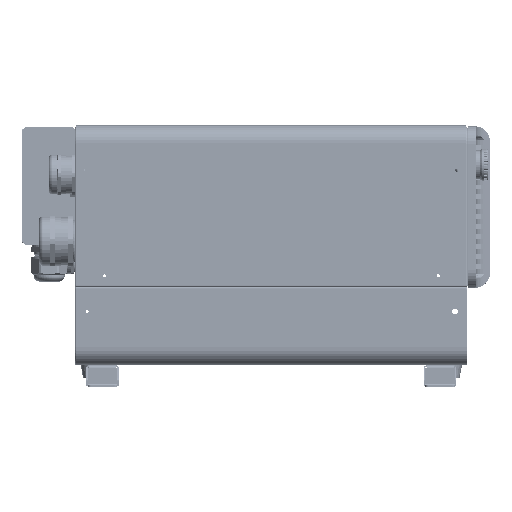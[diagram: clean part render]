
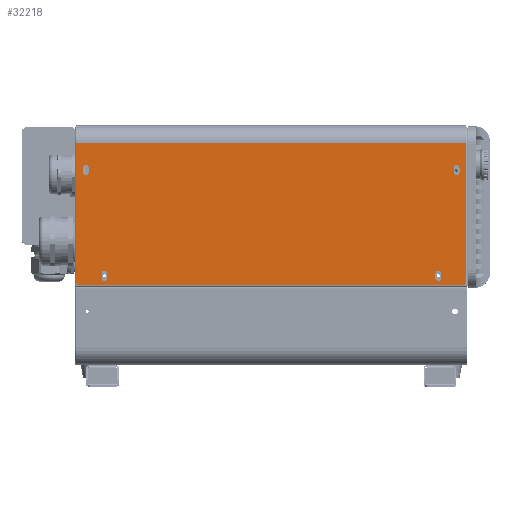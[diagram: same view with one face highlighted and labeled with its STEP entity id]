
A CAD part, left-side view. The second image highlights one B-rep face of the part: STEP entity #32218.
In plain terms, the highlighted planar face has unit normal (-1, 0, 0).
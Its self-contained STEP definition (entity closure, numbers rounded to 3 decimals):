
#5484=FACE_BOUND('',#75273,.T.);
#5485=FACE_BOUND('',#75274,.T.);
#5486=FACE_BOUND('',#75275,.T.);
#5487=FACE_BOUND('',#75276,.T.);
#5488=FACE_BOUND('',#75277,.T.);
#9398=PLANE('',#428902);
#32218=ADVANCED_FACE('',(#5484,#5485,#5486,#5487,#5488),#9398,.T.);
#75273=EDGE_LOOP('',(#215973,#215974,#215975,#215976));
#75274=EDGE_LOOP('',(#215977,#215978,#215979,#215980));
#75275=EDGE_LOOP('',(#215981,#215982,#215983,#215984));
#75276=EDGE_LOOP('',(#215985,#215986,#215987,#215988));
#75277=EDGE_LOOP('',(#215989,#215990,#215991,#215992,#215993,#215994));
#96771=CIRCLE('',#428866,2.75);
#96773=CIRCLE('',#428870,2.75);
#96775=CIRCLE('',#428874,2.75);
#96777=CIRCLE('',#428878,2.75);
#96779=CIRCLE('',#428882,2.75);
#96781=CIRCLE('',#428886,2.75);
#96789=CIRCLE('',#428898,2.75);
#96790=CIRCLE('',#428899,2.75);
#96791=CIRCLE('',#428900,3.);
#96792=CIRCLE('',#428901,3.);
#114925=LINE('',#604425,#159109);
#114929=LINE('',#604437,#159113);
#114933=LINE('',#604449,#159117);
#114937=LINE('',#604461,#159121);
#114941=LINE('',#604473,#159125);
#114945=LINE('',#604485,#159129);
#114955=LINE('',#604510,#159139);
#114958=LINE('',#604521,#159142);
#114959=LINE('',#604526,#159143);
#114960=LINE('',#604529,#159144);
#114961=LINE('',#604534,#159145);
#114962=LINE('',#604536,#159146);
#159109=VECTOR('',#476964,1.);
#159113=VECTOR('',#476976,1.);
#159117=VECTOR('',#476988,1.);
#159121=VECTOR('',#477000,1.);
#159125=VECTOR('',#477012,1.);
#159129=VECTOR('',#477024,1.);
#159139=VECTOR('',#477042,1.);
#159142=VECTOR('',#477055,1.);
#159143=VECTOR('',#477058,1.);
#159144=VECTOR('',#477061,1.);
#159145=VECTOR('',#477064,1.);
#159146=VECTOR('',#477065,1.);
#215973=ORIENTED_EDGE('',*,*,#368984,.F.);
#215974=ORIENTED_EDGE('',*,*,#368987,.F.);
#215975=ORIENTED_EDGE('',*,*,#368990,.F.);
#215976=ORIENTED_EDGE('',*,*,#368980,.F.);
#215977=ORIENTED_EDGE('',*,*,#368996,.F.);
#215978=ORIENTED_EDGE('',*,*,#368999,.F.);
#215979=ORIENTED_EDGE('',*,*,#369002,.F.);
#215980=ORIENTED_EDGE('',*,*,#368992,.F.);
#215981=ORIENTED_EDGE('',*,*,#369008,.F.);
#215982=ORIENTED_EDGE('',*,*,#369011,.F.);
#215983=ORIENTED_EDGE('',*,*,#369014,.F.);
#215984=ORIENTED_EDGE('',*,*,#369004,.F.);
#215985=ORIENTED_EDGE('',*,*,#369033,.F.);
#215986=ORIENTED_EDGE('',*,*,#369034,.F.);
#215987=ORIENTED_EDGE('',*,*,#369035,.F.);
#215988=ORIENTED_EDGE('',*,*,#369036,.F.);
#215989=ORIENTED_EDGE('',*,*,#369037,.F.);
#215990=ORIENTED_EDGE('',*,*,#369038,.T.);
#215991=ORIENTED_EDGE('',*,*,#369039,.T.);
#215992=ORIENTED_EDGE('',*,*,#369040,.F.);
#215993=ORIENTED_EDGE('',*,*,#369026,.F.);
#215994=ORIENTED_EDGE('',*,*,#369041,.T.);
#325079=VERTEX_POINT('',#604417);
#325080=VERTEX_POINT('',#604418);
#325083=VERTEX_POINT('',#604426);
#325085=VERTEX_POINT('',#604432);
#325087=VERTEX_POINT('',#604441);
#325088=VERTEX_POINT('',#604442);
#325091=VERTEX_POINT('',#604450);
#325093=VERTEX_POINT('',#604456);
#325095=VERTEX_POINT('',#604465);
#325096=VERTEX_POINT('',#604466);
#325099=VERTEX_POINT('',#604474);
#325101=VERTEX_POINT('',#604480);
#325113=VERTEX_POINT('',#604509);
#325114=VERTEX_POINT('',#604511);
#325117=VERTEX_POINT('',#604522);
#325118=VERTEX_POINT('',#604523);
#325119=VERTEX_POINT('',#604525);
#325120=VERTEX_POINT('',#604527);
#325121=VERTEX_POINT('',#604530);
#325122=VERTEX_POINT('',#604531);
#325123=VERTEX_POINT('',#604533);
#325124=VERTEX_POINT('',#604535);
#368980=EDGE_CURVE('',#325079,#325080,#96771,.T.);
#368984=EDGE_CURVE('',#325083,#325079,#114925,.T.);
#368987=EDGE_CURVE('',#325085,#325083,#96773,.T.);
#368990=EDGE_CURVE('',#325080,#325085,#114929,.T.);
#368992=EDGE_CURVE('',#325087,#325088,#96775,.T.);
#368996=EDGE_CURVE('',#325091,#325087,#114933,.T.);
#368999=EDGE_CURVE('',#325093,#325091,#96777,.T.);
#369002=EDGE_CURVE('',#325088,#325093,#114937,.T.);
#369004=EDGE_CURVE('',#325095,#325096,#96779,.T.);
#369008=EDGE_CURVE('',#325099,#325095,#114941,.T.);
#369011=EDGE_CURVE('',#325101,#325099,#96781,.T.);
#369014=EDGE_CURVE('',#325096,#325101,#114945,.T.);
#369026=EDGE_CURVE('',#325113,#325114,#114955,.T.);
#369033=EDGE_CURVE('',#325117,#325118,#114958,.T.);
#369034=EDGE_CURVE('',#325119,#325117,#96789,.T.);
#369035=EDGE_CURVE('',#325120,#325119,#114959,.T.);
#369036=EDGE_CURVE('',#325118,#325120,#96790,.T.);
#369037=EDGE_CURVE('',#325121,#325122,#114960,.T.);
#369038=EDGE_CURVE('',#325121,#325123,#96791,.T.);
#369039=EDGE_CURVE('',#325123,#325124,#114961,.T.);
#369040=EDGE_CURVE('',#325114,#325124,#114962,.T.);
#369041=EDGE_CURVE('',#325113,#325122,#96792,.T.);
#428866=AXIS2_PLACEMENT_3D('',#604416,#476956,#476957);
#428870=AXIS2_PLACEMENT_3D('',#604431,#476969,#476970);
#428874=AXIS2_PLACEMENT_3D('',#604440,#476980,#476981);
#428878=AXIS2_PLACEMENT_3D('',#604455,#476993,#476994);
#428882=AXIS2_PLACEMENT_3D('',#604464,#477004,#477005);
#428886=AXIS2_PLACEMENT_3D('',#604479,#477017,#477018);
#428898=AXIS2_PLACEMENT_3D('',#604524,#477056,#477057);
#428899=AXIS2_PLACEMENT_3D('',#604528,#477059,#477060);
#428900=AXIS2_PLACEMENT_3D('',#604532,#477062,#477063);
#428901=AXIS2_PLACEMENT_3D('',#604537,#477066,#477067);
#428902=AXIS2_PLACEMENT_3D('',#604538,#477068,#477069);
#476956=DIRECTION('',(-1.,0.,0.));
#476957=DIRECTION('',(0.,0.,1.));
#476964=DIRECTION('',(0.,0.,1.));
#476969=DIRECTION('',(-1.,0.,0.));
#476970=DIRECTION('',(0.,0.,1.));
#476976=DIRECTION('',(0.,0.,-1.));
#476980=DIRECTION('',(-1.,0.,0.));
#476981=DIRECTION('',(0.,0.,1.));
#476988=DIRECTION('',(0.,0.,1.));
#476993=DIRECTION('',(-1.,0.,0.));
#476994=DIRECTION('',(0.,0.,1.));
#477000=DIRECTION('',(0.,0.,-1.));
#477004=DIRECTION('',(-1.,0.,0.));
#477005=DIRECTION('',(0.,0.,1.));
#477012=DIRECTION('',(0.,0.,1.));
#477017=DIRECTION('',(-1.,0.,0.));
#477018=DIRECTION('',(0.,0.,1.));
#477024=DIRECTION('',(0.,0.,-1.));
#477042=DIRECTION('',(0.,0.,1.));
#477055=DIRECTION('',(0.,0.,1.));
#477056=DIRECTION('',(-1.,0.,0.));
#477057=DIRECTION('',(0.,0.,1.));
#477058=DIRECTION('',(0.,0.,-1.));
#477059=DIRECTION('',(-1.,0.,0.));
#477060=DIRECTION('',(0.,0.,1.));
#477061=DIRECTION('',(0.,1.,0.));
#477062=DIRECTION('',(-1.,0.,0.));
#477063=DIRECTION('',(0.,0.,1.));
#477064=DIRECTION('',(0.,0.,1.));
#477065=DIRECTION('',(0.,-1.,0.));
#477066=DIRECTION('',(-1.,0.,0.));
#477067=DIRECTION('',(0.,0.,1.));
#477068=DIRECTION('',(-1.,0.,0.));
#477069=DIRECTION('',(0.,0.,-1.));
#604416=CARTESIAN_POINT('',(-171.,35.5,-148.8));
#604417=CARTESIAN_POINT('',(-171.,32.75,-148.8));
#604418=CARTESIAN_POINT('',(-171.,38.25,-148.8));
#604425=CARTESIAN_POINT('',(-171.,32.75,-168.1));
#604426=CARTESIAN_POINT('',(-171.,32.75,-153.8));
#604431=CARTESIAN_POINT('',(-171.,35.5,-153.8));
#604432=CARTESIAN_POINT('',(-171.,38.25,-153.8));
#604437=CARTESIAN_POINT('',(-171.,38.25,-168.1));
#604440=CARTESIAN_POINT('',(-171.,16.7,-42.2));
#604441=CARTESIAN_POINT('',(-171.,13.95,-42.2));
#604442=CARTESIAN_POINT('',(-171.,19.45,-42.2));
#604449=CARTESIAN_POINT('',(-171.,13.95,-168.1));
#604450=CARTESIAN_POINT('',(-171.,13.95,-47.2));
#604455=CARTESIAN_POINT('',(-171.,16.7,-47.2));
#604456=CARTESIAN_POINT('',(-171.,19.45,-47.2));
#604461=CARTESIAN_POINT('',(-171.,19.45,-168.1));
#604464=CARTESIAN_POINT('',(-171.,390.798,-42.2));
#604465=CARTESIAN_POINT('',(-171.,388.048,-42.2));
#604466=CARTESIAN_POINT('',(-171.,393.548,-42.2));
#604473=CARTESIAN_POINT('',(-171.,388.048,-168.1));
#604474=CARTESIAN_POINT('',(-171.,388.048,-47.2));
#604479=CARTESIAN_POINT('',(-171.,390.798,-47.2));
#604480=CARTESIAN_POINT('',(-171.,393.548,-47.2));
#604485=CARTESIAN_POINT('',(-171.,393.548,-168.1));
#604509=CARTESIAN_POINT('',(-171.,400.282,-157.8));
#604510=CARTESIAN_POINT('',(-171.,400.282,-165.6));
#604511=CARTESIAN_POINT('',(-171.,400.282,-17.6));
#604521=CARTESIAN_POINT('',(-171.,369.264,-168.1));
#604522=CARTESIAN_POINT('',(-171.,369.264,-153.8));
#604523=CARTESIAN_POINT('',(-171.,369.264,-148.8));
#604524=CARTESIAN_POINT('',(-171.,372.014,-153.8));
#604525=CARTESIAN_POINT('',(-171.,374.764,-153.8));
#604526=CARTESIAN_POINT('',(-171.,374.764,-168.1));
#604527=CARTESIAN_POINT('',(-171.,374.764,-148.8));
#604528=CARTESIAN_POINT('',(-171.,372.014,-148.8));
#604529=CARTESIAN_POINT('',(-171.,130.284,-160.8));
#604530=CARTESIAN_POINT('',(-171.,10.2,-160.8));
#604531=CARTESIAN_POINT('',(-171.,397.282,-160.8));
#604532=CARTESIAN_POINT('',(-171.,10.2,-157.8));
#604533=CARTESIAN_POINT('',(-171.,7.2,-157.8));
#604534=CARTESIAN_POINT('',(-171.,7.2,-165.6));
#604535=CARTESIAN_POINT('',(-171.,7.2,-17.6));
#604536=CARTESIAN_POINT('',(-171.,341.3,-17.6));
#604537=CARTESIAN_POINT('',(-171.,397.282,-157.8));
#604538=CARTESIAN_POINT('',(-171.,130.284,-165.6));
